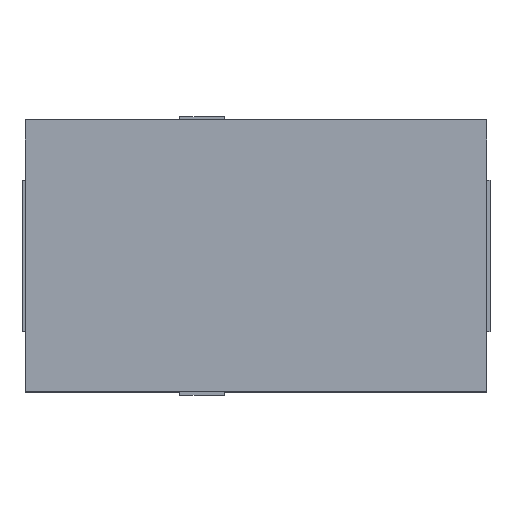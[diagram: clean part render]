
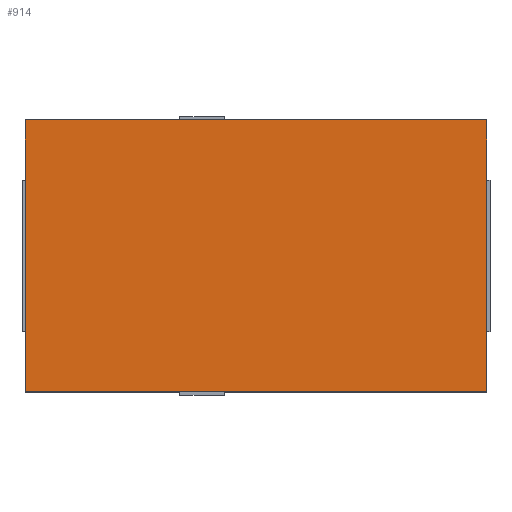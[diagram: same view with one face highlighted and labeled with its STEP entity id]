
A CAD part, top view. The second image highlights one B-rep face of the part: STEP entity #914.
In plain terms, the highlighted planar face has unit normal (0, 0, 1).
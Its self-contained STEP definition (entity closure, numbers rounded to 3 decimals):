
#481=CARTESIAN_POINT('',(1.45,4.721,1.1));
#482=VERTEX_POINT('',#481);
#489=CARTESIAN_POINT('',(8.75,4.721,1.1));
#490=VERTEX_POINT('',#489);
#491=CARTESIAN_POINT('',(1.45,4.721,1.1));
#492=DIRECTION('',(1.0,0.0,0.0));
#493=VECTOR('',#492,7.3);
#494=LINE('',#491,#493);
#495=EDGE_CURVE('',#482,#490,#494,.T.);
#804=CARTESIAN_POINT('',(8.75,0.421,1.1));
#805=VERTEX_POINT('',#804);
#806=CARTESIAN_POINT('',(8.75,4.721,1.1));
#807=DIRECTION('',(0.0,-1.0,0.0));
#808=VECTOR('',#807,4.3);
#809=LINE('',#806,#808);
#810=EDGE_CURVE('',#490,#805,#809,.T.);
#836=CARTESIAN_POINT('',(1.45,0.421,1.1));
#837=VERTEX_POINT('',#836);
#844=CARTESIAN_POINT('',(1.45,0.421,1.1));
#845=DIRECTION('',(0.0,1.0,0.0));
#846=VECTOR('',#845,4.3);
#847=LINE('',#844,#846);
#848=EDGE_CURVE('',#837,#482,#847,.T.);
#870=CARTESIAN_POINT('',(8.75,0.421,1.1));
#871=DIRECTION('',(-1.0,0.0,0.0));
#872=VECTOR('',#871,7.3);
#873=LINE('',#870,#872);
#874=EDGE_CURVE('',#805,#837,#873,.T.);
#903=CARTESIAN_POINT('',(5.1,2.571,1.1));
#904=DIRECTION('',(0.0,0.0,1.0));
#905=DIRECTION('',(1.0,0.0,0.0));
#906=AXIS2_PLACEMENT_3D('',#903,#904,#905);
#907=PLANE('',#906);
#908=ORIENTED_EDGE('',*,*,#848,.F.);
#909=ORIENTED_EDGE('',*,*,#874,.F.);
#910=ORIENTED_EDGE('',*,*,#810,.F.);
#911=ORIENTED_EDGE('',*,*,#495,.F.);
#912=EDGE_LOOP('',(#908,#909,#910,#911));
#913=FACE_OUTER_BOUND('',#912,.T.);
#914=ADVANCED_FACE('',(#913),#907,.T.);
